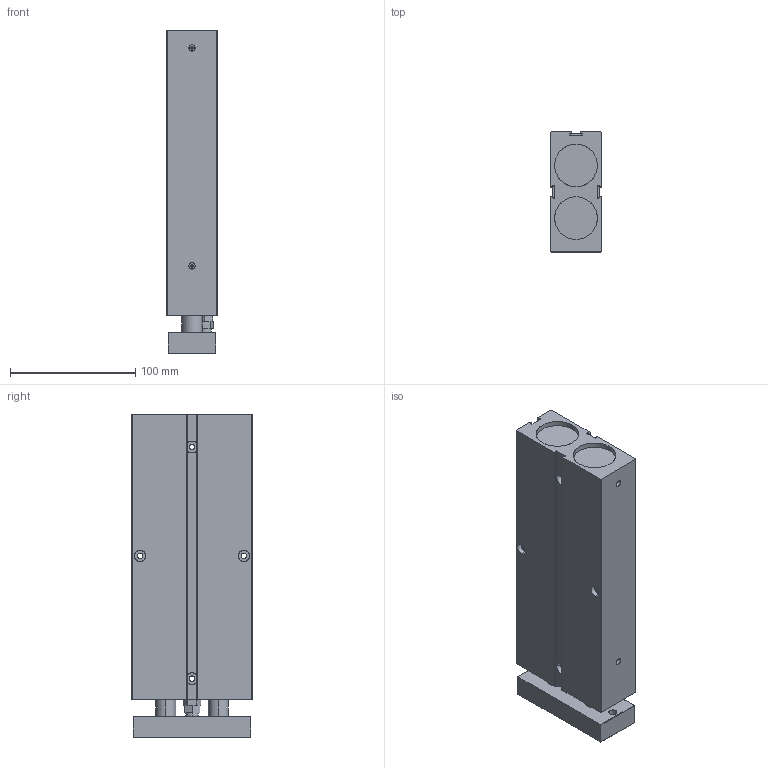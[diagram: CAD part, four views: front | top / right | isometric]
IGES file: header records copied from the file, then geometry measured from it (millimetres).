
Start section: SolidWorks IGES file using analytic representation for surfaces
Global section: file name: D:\ARICA 3D 禽Z軲LER\3D IGES\TN\TN 32\TN-32X150-CYLINDER.IGS,1; native system: 5HSolidWorks 2013; preprocessor: SolidWorks 2013; author: user; date: 150709.100507; units: millimetre
Bounding box: 40 x 96 x 258 mm (x, y, z)
Surface area: 151482.2 mm2 (no closed solid volume)
Topology: 0 solids, 0 shells, 259 faces, 3847 edges, 3846 vertices
Faces by surface type: bspline 141, revolution 118
